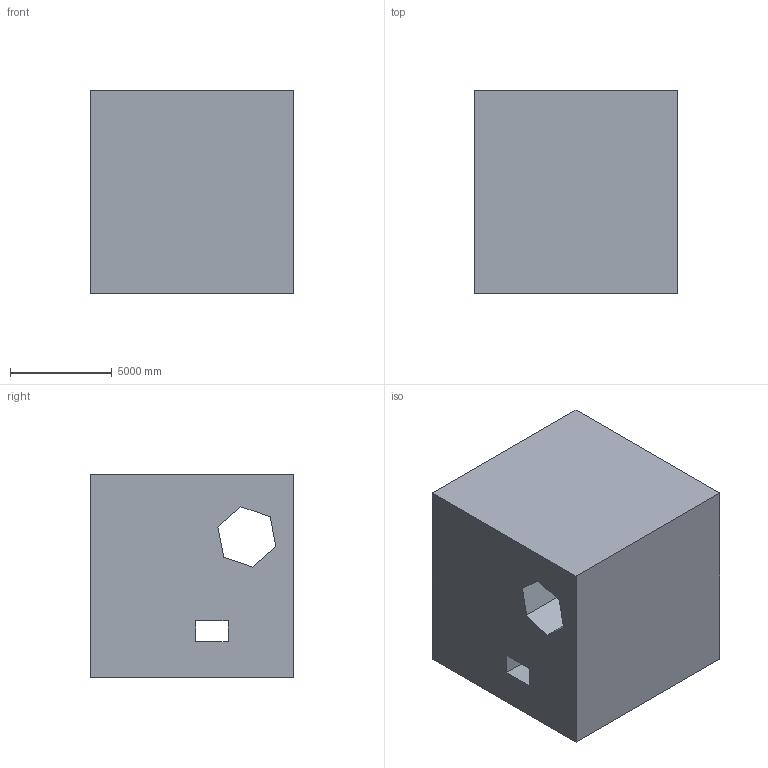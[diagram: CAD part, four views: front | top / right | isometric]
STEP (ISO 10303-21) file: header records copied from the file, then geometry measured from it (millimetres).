
FILE_DESCRIPTION (( 'STEP AP203' ), '1' );
FILE_NAME ('1223.STEP', '2022-08-18T13:15:46', ( 'user' ), ( '' ), 'SwSTEP 2.0', 'SolidWorks 2021', '' );
FILE_SCHEMA (( 'CONFIG_CONTROL_DESIGN' ));
Length unit declared in the file: centimetre
Products named in the file (1): 1223
Bounding box: 10000 x 10000 x 10000 mm (x, y, z)
Volume: 843104929153.1 mm3; surface area: 821109596.3 mm2
Topology: 1 solids, 1 shells, 19 faces, 48 edges, 32 vertices
Faces by surface type: plane 17, cylinder 2
Entity records: 651 total; most frequent: CARTESIAN_POINT 100, ORIENTED_EDGE 96, DIRECTION 92, EDGE_CURVE 48, VECTOR 44, LINE 44, VERTEX_POINT 32, AXIS2_PLACEMENT_3D 24
